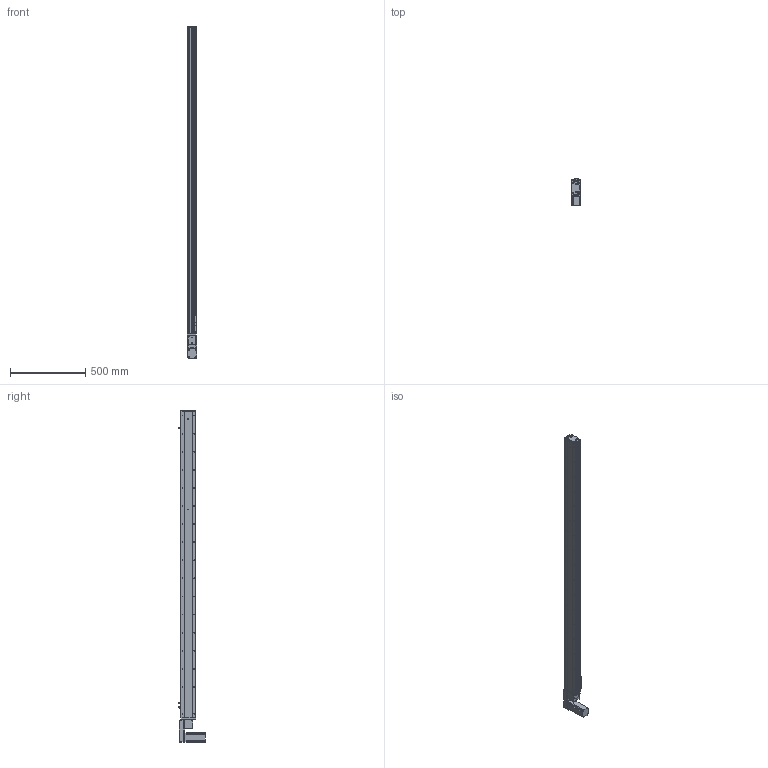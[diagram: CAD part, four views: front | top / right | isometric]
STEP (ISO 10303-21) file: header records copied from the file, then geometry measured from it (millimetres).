
FILE_DESCRIPTION (( 'STEP AP214' ), '1' );
FILE_NAME ('KSD100B-S1850-MLB-CM.STEP', '2019-11-09T07:33:35', ( '微软用户' ), ( '微软中国' ), 'SwSTEP 2.0', 'SolidWorks 2014', '' );
FILE_SCHEMA (( 'AUTOMOTIVE_DESIGN' ));
Length unit declared in the file: millimetre
Products named in the file (12): 100宽马达安装板同步带; 100遵傷啣肮祭湍; 100宽底板半封闭同步带1850行程; KSD100B-S1850-MLB-CM; 悵誘欶奻狟殏; 100宽马达安装板连板上下折丝杆同步带; 台达ECMA－C20604AS伺服电机; U倰嫖萇EEㄜSX672; 覜茼え100遵圉猾敕; 100宽防尘板1850行程-同步带; 100宽马达安装板同步带左; 100宽同步带安装板半封闭
Assembly tree (13 placements, depth 2):
  KSD100B-S1850-MLB-CM
    100宽底板半封闭同步带1850行程
    100遵傷啣肮祭湍
    100宽马达安装板同步带
    100宽同步带安装板半封闭
    100宽马达安装板同步带左
    100宽防尘板1850行程-同步带
    覜茼え100遵圉猾敕
    U倰嫖萇EEㄜSX672  x3
    台达ECMA－C20604AS伺服电机
    100宽马达安装板连板上下折丝杆同步带
    悵誘欶奻狟殏
Bounding box: 61 x 174.7 x 2203 mm (x, y, z)
Volume: 4361793.6 mm3; surface area: 1496840.3 mm2
Topology: 14 solids, 14 shells, 1707 faces, 4846 edges, 3047 vertices
Faces by surface type: cylinder 893, plane 619, cone 195
Entity records: 62883 total; most frequent: CARTESIAN_POINT 13554, DIRECTION 8470, ORIENTED_EDGE 8208, EDGE_CURVE 4104, AXIS2_PLACEMENT_3D 3125, VERTEX_POINT 2671, LINE 2220, VECTOR 2220
